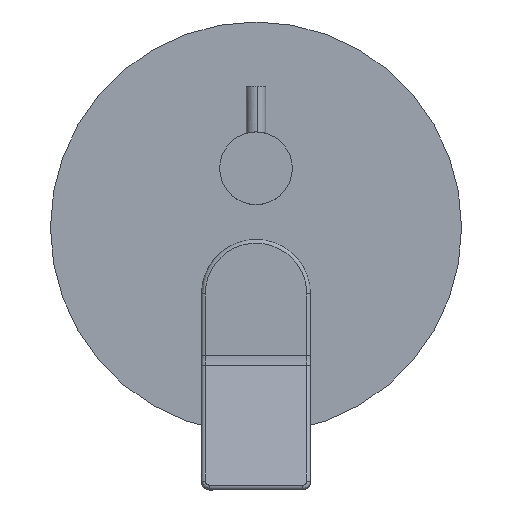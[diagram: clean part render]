
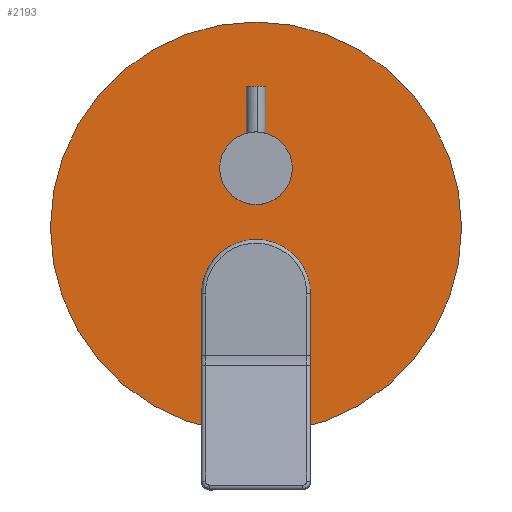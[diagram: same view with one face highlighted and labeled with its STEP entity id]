
A CAD part, top view. The second image highlights one B-rep face of the part: STEP entity #2193.
In plain terms, the highlighted planar face has unit normal (0, 0, 1).
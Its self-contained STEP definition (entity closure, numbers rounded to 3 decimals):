
#3 = CIRCLE ( 'NONE', #2169, 21.2 ) ;
#41 = VERTEX_POINT ( 'NONE', #2341 ) ;
#72 = VERTEX_POINT ( 'NONE', #2156 ) ;
#125 = CIRCLE ( 'NONE', #380, 21.2 ) ;
#129 = CIRCLE ( 'NONE', #3596, 15. ) ;
#189 = AXIS2_PLACEMENT_3D ( 'NONE', #1179, #1686, #3203 ) ;
#280 = EDGE_CURVE ( 'NONE', #760, #1463, #1086, .T. ) ;
#287 = EDGE_CURVE ( 'NONE', #706, #2389, #1865, .T. ) ;
#291 = DIRECTION ( 'NONE',  ( 0., 1., 0. ) ) ;
#328 = DIRECTION ( 'NONE',  ( 0., 1., 0. ) ) ;
#334 = EDGE_CURVE ( 'NONE', #1608, #530, #3, .T. ) ;
#340 = CARTESIAN_POINT ( 'NONE',  ( -32.551, -19.464, 212.837 ) ) ;
#380 = AXIS2_PLACEMENT_3D ( 'NONE', #2673, #950, #1192 ) ;
#433 = EDGE_LOOP ( 'NONE', ( #2720, #2705 ) ) ;
#470 = ORIENTED_EDGE ( 'NONE', *, *, #287, .T. ) ;
#487 = CIRCLE ( 'NONE', #2045, 85. ) ;
#504 = ORIENTED_EDGE ( 'NONE', *, *, #3639, .T. ) ;
#530 = VERTEX_POINT ( 'NONE', #2659 ) ;
#605 = EDGE_LOOP ( 'NONE', ( #1279, #3224, #1601, #3567 ) ) ;
#609 = EDGE_CURVE ( 'NONE', #1463, #760, #129, .T. ) ;
#706 = VERTEX_POINT ( 'NONE', #2492 ) ;
#760 = VERTEX_POINT ( 'NONE', #3334 ) ;
#796 = FACE_BOUND ( 'NONE', #433, .T. ) ;
#851 = CARTESIAN_POINT ( 'NONE',  ( -12.716, 12.975, 212.837 ) ) ;
#896 = CARTESIAN_POINT ( 'NONE',  ( -96.159, 10.536, 212.837 ) ) ;
#924 = CIRCLE ( 'NONE', #2229, 22.5 ) ;
#950 = DIRECTION ( 'NONE',  ( 0., 0., -1. ) ) ;
#1018 = DIRECTION ( 'NONE',  ( 1., 0., 0. ) ) ;
#1086 = CIRCLE ( 'NONE', #3304, 15. ) ;
#1093 = CARTESIAN_POINT ( 'NONE',  ( 3.841, 35.036, 212.837 ) ) ;
#1111 = VERTEX_POINT ( 'NONE', #3558 ) ;
#1113 = DIRECTION ( 'NONE',  ( -1., 0., 0. ) ) ;
#1150 = FACE_BOUND ( 'NONE', #2167, .T. ) ;
#1152 = EDGE_LOOP ( 'NONE', ( #470, #504 ) ) ;
#1179 = CARTESIAN_POINT ( 'NONE',  ( -11.159, 10.536, 212.837 ) ) ;
#1192 = DIRECTION ( 'NONE',  ( -1., 0., 0. ) ) ;
#1213 = CARTESIAN_POINT ( 'NONE',  ( -11.159, -17.034, 212.837 ) ) ;
#1253 = DIRECTION ( 'NONE',  ( 1., 0., 0. ) ) ;
#1279 = ORIENTED_EDGE ( 'NONE', *, *, #1638, .T. ) ;
#1390 = PLANE ( 'NONE',  #3585 ) ;
#1408 = FACE_OUTER_BOUND ( 'NONE', #1152, .T. ) ;
#1413 = CARTESIAN_POINT ( 'NONE',  ( -11.159, -16.964, 212.837 ) ) ;
#1463 = VERTEX_POINT ( 'NONE', #1093 ) ;
#1566 = DIRECTION ( 'NONE',  ( 0., 0., -1. ) ) ;
#1601 = ORIENTED_EDGE ( 'NONE', *, *, #3279, .T. ) ;
#1608 = VERTEX_POINT ( 'NONE', #2182 ) ;
#1621 = EDGE_CURVE ( 'NONE', #72, #41, #924, .T. ) ;
#1638 = EDGE_CURVE ( 'NONE', #1111, #72, #3036, .T. ) ;
#1686 = DIRECTION ( 'NONE',  ( 0., 0., 1. ) ) ;
#1731 = CARTESIAN_POINT ( 'NONE',  ( -11.159, 35.036, 212.837 ) ) ;
#1768 = DIRECTION ( 'NONE',  ( 0., 0., -1. ) ) ;
#1782 = CARTESIAN_POINT ( 'NONE',  ( -37.659, -19.464, 212.837 ) ) ;
#1857 = CARTESIAN_POINT ( 'NONE',  ( -11.159, -16.964, 212.837 ) ) ;
#1865 = CIRCLE ( 'NONE', #189, 85. ) ;
#2045 = AXIS2_PLACEMENT_3D ( 'NONE', #2087, #3230, #1253 ) ;
#2057 = VECTOR ( 'NONE', #3007, 1000. ) ;
#2078 = CARTESIAN_POINT ( 'NONE',  ( -11.159, 35.036, 212.837 ) ) ;
#2087 = CARTESIAN_POINT ( 'NONE',  ( -11.159, 10.536, 212.837 ) ) ;
#2149 = CIRCLE ( 'NONE', #3584, 21.529 ) ;
#2156 = CARTESIAN_POINT ( 'NONE',  ( 11.202, -19.464, 212.837 ) ) ;
#2165 = DIRECTION ( 'NONE',  ( 0., 1., 0. ) ) ;
#2167 = EDGE_LOOP ( 'NONE', ( #2523, #2206 ) ) ;
#2169 = AXIS2_PLACEMENT_3D ( 'NONE', #1413, #1768, #1113 ) ;
#2182 = CARTESIAN_POINT ( 'NONE',  ( 10.041, -16.964, 212.837 ) ) ;
#2193 = ADVANCED_FACE ( 'NONE', ( #1408, #796, #1150, #3404 ), #1390, .F. ) ;
#2206 = ORIENTED_EDGE ( 'NONE', *, *, #334, .T. ) ;
#2229 = AXIS2_PLACEMENT_3D ( 'NONE', #1857, #1566, #1018 ) ;
#2341 = CARTESIAN_POINT ( 'NONE',  ( -33.519, -19.464, 212.837 ) ) ;
#2389 = VERTEX_POINT ( 'NONE', #896 ) ;
#2400 = DIRECTION ( 'NONE',  ( 0., 0., 1. ) ) ;
#2492 = CARTESIAN_POINT ( 'NONE',  ( 73.841, 10.536, 212.837 ) ) ;
#2523 = ORIENTED_EDGE ( 'NONE', *, *, #3635, .T. ) ;
#2591 = DIRECTION ( 'NONE',  ( 0., 0., 1. ) ) ;
#2659 = CARTESIAN_POINT ( 'NONE',  ( -32.359, -16.964, 212.837 ) ) ;
#2673 = CARTESIAN_POINT ( 'NONE',  ( -11.159, -16.964, 212.837 ) ) ;
#2677 = DIRECTION ( 'NONE',  ( 1., 0., 0. ) ) ;
#2705 = ORIENTED_EDGE ( 'NONE', *, *, #609, .F. ) ;
#2720 = ORIENTED_EDGE ( 'NONE', *, *, #280, .F. ) ;
#2792 = EDGE_CURVE ( 'NONE', #2800, #1111, #2149, .T. ) ;
#2800 = VERTEX_POINT ( 'NONE', #340 ) ;
#2902 = DIRECTION ( 'NONE',  ( 0., 0., 1. ) ) ;
#2912 = VECTOR ( 'NONE', #2677, 1000. ) ;
#2939 = LINE ( 'NONE', #1782, #2912 ) ;
#3007 = DIRECTION ( 'NONE',  ( 1., 0., 0. ) ) ;
#3036 = LINE ( 'NONE', #3602, #2057 ) ;
#3171 = DIRECTION ( 'NONE',  ( -1., 0., 0. ) ) ;
#3203 = DIRECTION ( 'NONE',  ( 1., 0., 0. ) ) ;
#3224 = ORIENTED_EDGE ( 'NONE', *, *, #1621, .T. ) ;
#3230 = DIRECTION ( 'NONE',  ( 0., 0., 1. ) ) ;
#3279 = EDGE_CURVE ( 'NONE', #41, #2800, #2939, .T. ) ;
#3304 = AXIS2_PLACEMENT_3D ( 'NONE', #1731, #2902, #328 ) ;
#3334 = CARTESIAN_POINT ( 'NONE',  ( -26.159, 35.036, 212.837 ) ) ;
#3404 = FACE_BOUND ( 'NONE', #605, .T. ) ;
#3558 = CARTESIAN_POINT ( 'NONE',  ( 10.233, -19.464, 212.837 ) ) ;
#3567 = ORIENTED_EDGE ( 'NONE', *, *, #2792, .T. ) ;
#3584 = AXIS2_PLACEMENT_3D ( 'NONE', #1213, #2591, #3171 ) ;
#3585 = AXIS2_PLACEMENT_3D ( 'NONE', #851, #3673, #291 ) ;
#3596 = AXIS2_PLACEMENT_3D ( 'NONE', #2078, #2400, #2165 ) ;
#3602 = CARTESIAN_POINT ( 'NONE',  ( -37.659, -19.464, 212.837 ) ) ;
#3635 = EDGE_CURVE ( 'NONE', #530, #1608, #125, .T. ) ;
#3639 = EDGE_CURVE ( 'NONE', #2389, #706, #487, .T. ) ;
#3673 = DIRECTION ( 'NONE',  ( 0., 0., -1. ) ) ;
